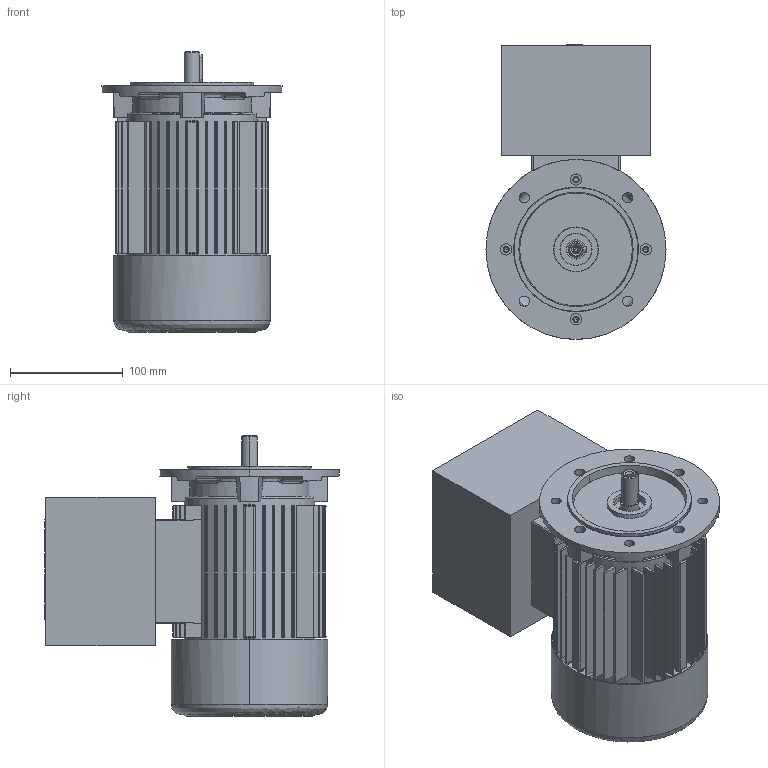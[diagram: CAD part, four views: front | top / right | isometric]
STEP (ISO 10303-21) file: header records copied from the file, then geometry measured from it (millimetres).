
FILE_DESCRIPTION (( 'STEP AP214' ), '1' );
FILE_NAME ('20.18390-B 5AT 71 B5 Exd STANDK.STEP', '2018-05-08T07:23:53', ( '' ), ( '' ), 'SwSTEP 2.0', 'SolidWorks 2017', '' );
FILE_SCHEMA (( 'AUTOMOTIVE_DESIGN' ));
Length unit declared in the file: millimetre
Products named in the file (1): 20.18390-B 5AT 71 B5 Exd STANDK
Bounding box: 159.9 x 261.95 x 249 mm (x, y, z)
Volume: 2963456.8 mm3; surface area: 442793.4 mm2
Topology: 4 solids, 4 shells, 906 faces, 2298 edges, 1458 vertices
Faces by surface type: plane 387, cylinder 311, bspline 149, cone 59
Entity records: 32782 total; most frequent: CARTESIAN_POINT 11357, ORIENTED_EDGE 4536, DIRECTION 4349, EDGE_CURVE 2268, AXIS2_PLACEMENT_3D 1620, VERTEX_POINT 1458, LINE 1109, VECTOR 1109
